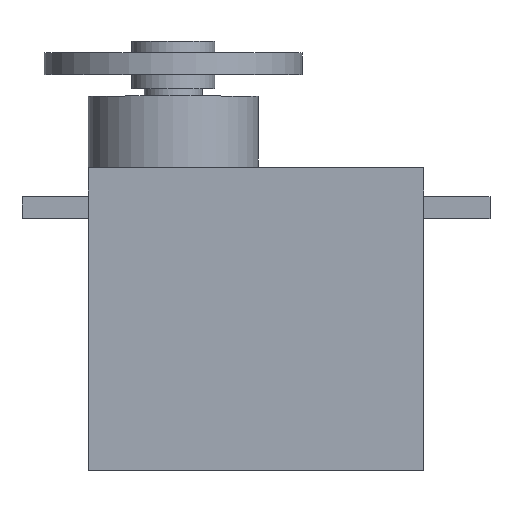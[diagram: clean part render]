
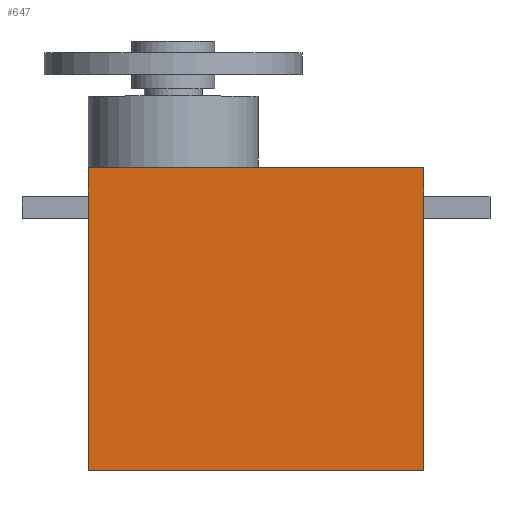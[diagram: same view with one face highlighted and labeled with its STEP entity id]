
A CAD part, top view. The second image highlights one B-rep face of the part: STEP entity #647.
In plain terms, the highlighted planar face has unit normal (0, 0, 1).
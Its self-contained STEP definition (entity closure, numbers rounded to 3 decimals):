
#63=PLANE('',#728);
#101=FACE_OUTER_BOUND('',#154,.T.);
#154=EDGE_LOOP('',(#581,#582,#583,#584));
#171=LINE('',#1012,#228);
#204=LINE('',#1084,#261);
#210=LINE('',#1093,#267);
#211=LINE('',#1095,#268);
#228=VECTOR('',#838,10.);
#261=VECTOR('',#899,10.);
#267=VECTOR('',#911,10.);
#268=VECTOR('',#914,10.);
#324=VERTEX_POINT('',#1009);
#325=VERTEX_POINT('',#1011);
#349=VERTEX_POINT('',#1081);
#350=VERTEX_POINT('',#1083);
#390=EDGE_CURVE('',#324,#325,#171,.T.);
#424=EDGE_CURVE('',#349,#350,#204,.T.);
#430=EDGE_CURVE('',#349,#325,#210,.T.);
#431=EDGE_CURVE('',#350,#324,#211,.T.);
#581=ORIENTED_EDGE('',*,*,#430,.T.);
#582=ORIENTED_EDGE('',*,*,#390,.F.);
#583=ORIENTED_EDGE('',*,*,#431,.F.);
#584=ORIENTED_EDGE('',*,*,#424,.F.);
#647=ADVANCED_FACE('',(#101),#63,.T.);
#728=AXIS2_PLACEMENT_3D('',#1094,#912,#913);
#838=DIRECTION('',(1.,0.,0.));
#899=DIRECTION('',(-1.,0.,0.));
#911=DIRECTION('',(0.,1.,0.));
#912=DIRECTION('center_axis',(0.,0.,1.));
#913=DIRECTION('ref_axis',(1.,0.,0.));
#914=DIRECTION('',(0.,1.,0.));
#1009=CARTESIAN_POINT('',(-11.649,2.,6.));
#1011=CARTESIAN_POINT('',(11.65,2.,6.));
#1012=CARTESIAN_POINT('',(11.65,2.,6.));
#1081=CARTESIAN_POINT('',(11.65,-19.,6.));
#1083=CARTESIAN_POINT('',(-11.649,-19.,6.));
#1084=CARTESIAN_POINT('',(11.65,-19.,6.));
#1093=CARTESIAN_POINT('',(11.65,0.,6.));
#1094=CARTESIAN_POINT('Origin',(-11.649,0.,6.));
#1095=CARTESIAN_POINT('',(-11.649,0.,6.));
